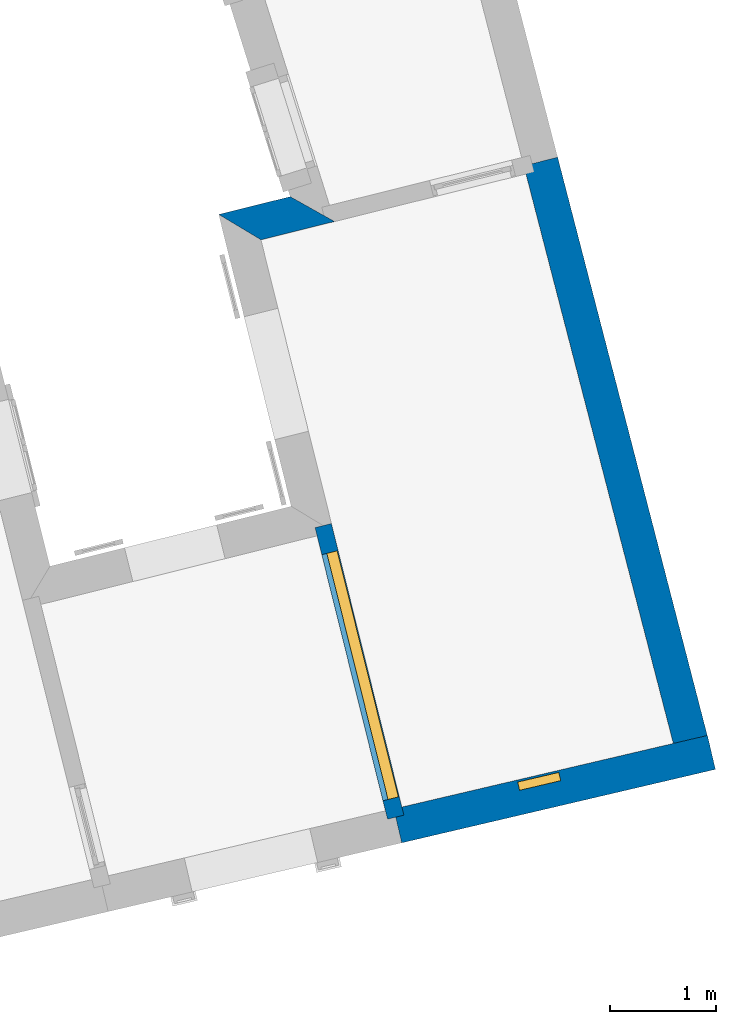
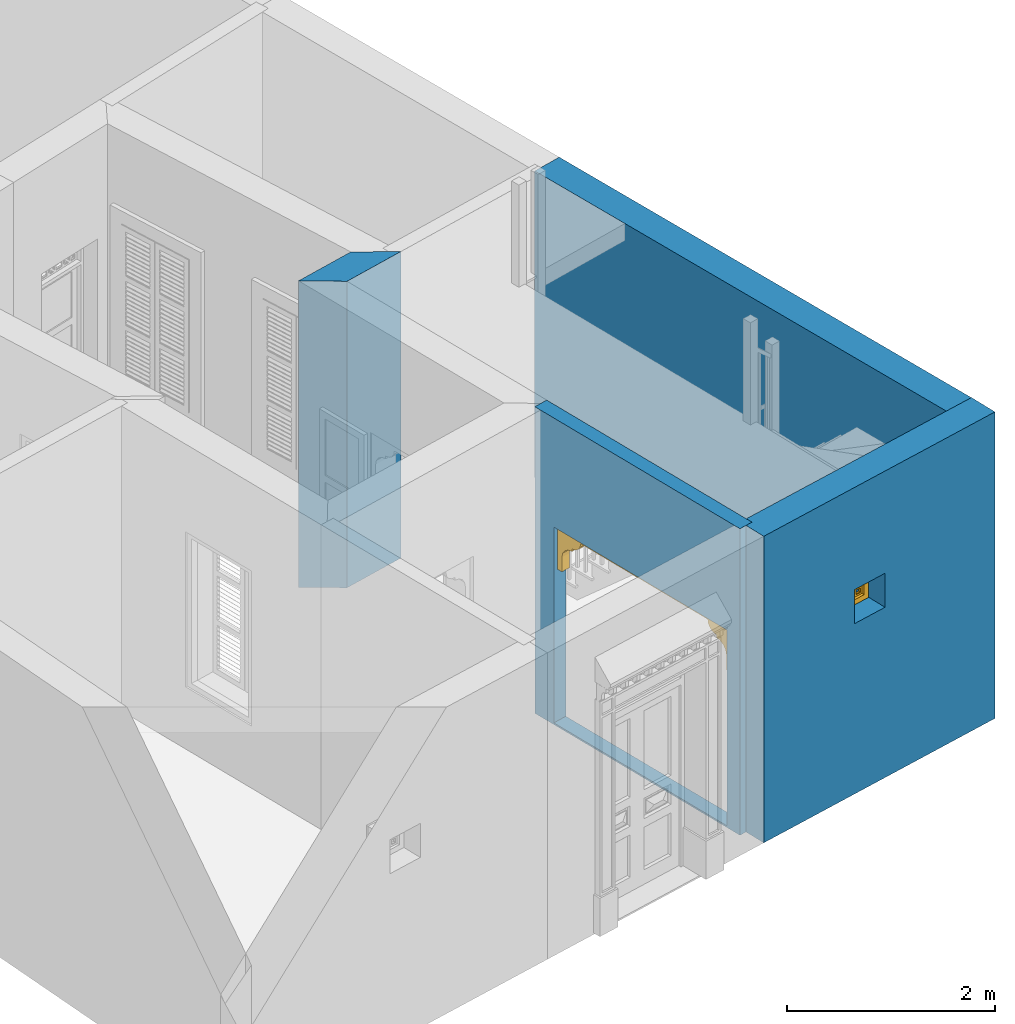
# One storey, part 8 of 14: 4 walls, 1 door, 1 window, 2 openings.
"""IFC4 building model written with IfcOpenShell, lengths in metres."""

import ifcopenshell
import ifcopenshell.guid

model = None  # the IFC model being written
_history = None  # IfcOwnerHistory: only IFC2X3 demands one
_inside = {}  # id of a spatial element -> (the spatial element, [elements in it])
_under = {}  # id of a project, library or spatial element -> (it, [spatial elements below it])
_declared = {}  # id of a project -> (the project, [libraries it declares])
_typed = {}  # id of a type object -> (the type object, [elements of that type])
_made_of = {}  # id of a material, layer set ... -> (it, [elements and type objects made of it])


def new_model(schema):
    """Start an empty IFC model of exactly this schema.

    Asked for "IFC4X3", IfcOpenShell would pick the latest addendum, in which some entities
    have other attributes; the version numbers below select the first issue.
    IFC2X3 requires an IfcOwnerHistory on every rooted entity: one is made here for all.
    """
    global model, _history
    if schema == "IFC4X3":
        model = ifcopenshell.file(schema_version=(4, 3, 0, 0))
    else:
        model = ifcopenshell.file(schema=schema)
    _inside.clear()
    _under.clear()
    _declared.clear()
    _typed.clear()
    _made_of.clear()
    _history = None
    if model.schema == "IFC2X3":
        org = make("IfcOrganization", Name="unknown")
        user = make(
            "IfcPersonAndOrganization",
            ThePerson=make("IfcPerson", FamilyName="unknown"),
            TheOrganization=org,
        )
        app = make(
            "IfcApplication",
            ApplicationDeveloper=org,
            Version="unknown",
            ApplicationFullName="unknown",
            ApplicationIdentifier="unknown",
        )
        _history = make(
            "IfcOwnerHistory",
            OwningUser=user,
            OwningApplication=app,
            ChangeAction="ADDED",
            CreationDate=0,
        )
    return model


def make(cls, **values):
    """One entity of the class cls with the attributes given. An attribute that is None is left unset."""
    return model.create_entity(
        cls, **{name: value for name, value in values.items() if value is not None}
    )


def rooted(cls, **values):
    """An entity with a GlobalId (a new one), such as an element, a storey or a relation."""
    return make(cls, GlobalId=ifcopenshell.guid.new(), OwnerHistory=_history, **values)


def si_unit(unit_type, name, prefix=None):
    """IfcSIUnit, for example si_unit("LENGTHUNIT", "METRE", prefix="MILLI")."""
    return make("IfcSIUnit", UnitType=unit_type, Prefix=prefix, Name=name)


def assignment(units):
    """IfcUnitAssignment: the units of a project."""
    return None if units is None else make("IfcUnitAssignment", Units=units)


def point(xyz):
    """IfcCartesianPoint."""
    return None if xyz is None else make("IfcCartesianPoint", Coordinates=xyz)


def direction(xyz):
    """IfcDirection."""
    return None if xyz is None else make("IfcDirection", DirectionRatios=xyz)


def frame(location, z_axis=None, x_axis=None):
    """IfcAxis2Placement3D, a coordinate frame: its origin and axes. An axis left out is left unset."""
    return make(
        "IfcAxis2Placement3D",
        Location=point(location),
        Axis=direction(z_axis),
        RefDirection=direction(x_axis),
    )


def origin():
    """The frame at (0, 0, 0) with its axes left unset."""
    return frame((0.0, 0.0, 0.0))


def origin_with_axes():
    """The frame at (0, 0, 0) with the z axis (0, 0, 1) and the x axis (1, 0, 0) written out."""
    return frame((0.0, 0.0, 0.0), z_axis=(0.0, 0.0, 1.0), x_axis=(1.0, 0.0, 0.0))


def place(relative_to, where):
    """IfcLocalPlacement: puts the frame where relative to a parent placement (None: the world)."""
    return make(
        "IfcLocalPlacement", PlacementRelTo=relative_to, RelativePlacement=where
    )


def context(
    kind, dimensions, precision=None, world=None, true_north=None, identifier=None
):
    """IfcGeometricRepresentationContext, for example the 3D "Model" context."""
    return make(
        "IfcGeometricRepresentationContext",
        ContextIdentifier=identifier,
        ContextType=kind,
        CoordinateSpaceDimension=dimensions,
        Precision=precision,
        WorldCoordinateSystem=world,
        TrueNorth=true_north,
    )


def subcontext(parent, identifier, kind, view, scale=None):
    """IfcGeometricRepresentationSubContext, for example "Body" below "Model"."""
    return make(
        "IfcGeometricRepresentationSubContext",
        ContextIdentifier=identifier,
        ContextType=kind,
        ParentContext=parent,
        TargetScale=scale,
        TargetView=view,
    )


def project(units=None, contexts=None):
    """IfcProject with its units and contexts."""
    return rooted(
        "IfcProject",
        Name="project",
        RepresentationContexts=contexts,
        UnitsInContext=assignment(units),
    )


def spatial(cls, under=None, at=None, **own):
    """A site, building, storey or space (cls), placed at a placement, below another one or the project."""
    s = rooted(cls, ObjectPlacement=at, **own)
    if under is not None:
        _under.setdefault(under.id(), (under, []))[1].append(s)
    return s


def polyline(points):
    """IfcPolyline through the points."""
    return make("IfcPolyline", Points=[point(p) for p in points])


def outline(outer, holes=None, kind="AREA"):
    """IfcArbitraryClosedProfileDef: a profile drawn as a closed curve; with holes, ...WithVoids."""
    if holes is None:
        return make("IfcArbitraryClosedProfileDef", ProfileType=kind, OuterCurve=outer)
    return make(
        "IfcArbitraryProfileDefWithVoids",
        ProfileType=kind,
        OuterCurve=outer,
        InnerCurves=holes,
    )


def extrude(swept, where, along, depth):
    """IfcExtrudedAreaSolid: the profile swept, set in the frame where, extruded along a direction by depth."""
    return make(
        "IfcExtrudedAreaSolid",
        SweptArea=swept,
        Position=where,
        ExtrudedDirection=direction(along),
        Depth=depth,
    )


def faces_of(points, faces, orient=None, outer=None):
    """IfcFace entities. A face is a list of loops; a loop is a list of indices into points, from 0.

    orient and outer hold one flag for each loop. By default every Orientation is true, the
    first loop of a face is its IfcFaceOuterBound and the others are IfcFaceBound.
    """
    made = []
    for i, loops in enumerate(faces):
        bounds = []
        for j, loop in enumerate(loops):
            is_outer = j == 0 if outer is None else outer[i][j]
            bounds.append(
                make(
                    "IfcFaceOuterBound" if is_outer else "IfcFaceBound",
                    Bound=make("IfcPolyLoop", Polygon=[points[k] for k in loop]),
                    Orientation=True if orient is None else orient[i][j],
                )
            )
        made.append(make("IfcFace", Bounds=bounds))
    return made


def faceted_brep(points, faces, orient=None, outer=None, voids=None):
    """IfcFacetedBrep: a solid bounded by flat faces; with voids (closed shells), ...WithVoids."""
    shared = [point(p) for p in points]
    hull = make("IfcClosedShell", CfsFaces=faces_of(shared, faces, orient, outer))
    if voids is None:
        return make("IfcFacetedBrep", Outer=hull)
    return make(
        "IfcFacetedBrepWithVoids",
        Outer=hull,
        Voids=[
            make(cls, CfsFaces=faces_of(shared, fs, o, b)) for cls, fs, o, b in voids
        ],
    )


def shape(context_of_items, identifier, shape_type, items):
    """IfcShapeRepresentation: the items that make up one representation, for example the "Body"."""
    return make(
        "IfcShapeRepresentation",
        ContextOfItems=context_of_items,
        RepresentationIdentifier=identifier,
        RepresentationType=shape_type,
        Items=items,
    )


def source(mapping_origin, context_of_items, identifier, shape_type, items):
    """IfcRepresentationMap: a shape defined once, which mapped items show again and again."""
    return make(
        "IfcRepresentationMap",
        MappingOrigin=mapping_origin,
        MappedRepresentation=shape(context_of_items, identifier, shape_type, items),
    )


def transform(
    local_origin,
    x_axis=None,
    y_axis=None,
    z_axis=None,
    scale=None,
    scale2=None,
    scale3=None,
    uniform=True,
):
    """IfcCartesianTransformationOperator3D, or its non-uniform kind. x_axis, y_axis, z_axis: its Axis1, 2, 3."""
    if uniform:
        return make(
            "IfcCartesianTransformationOperator3D",
            Axis1=direction(x_axis),
            Axis2=direction(y_axis),
            LocalOrigin=point(local_origin),
            Scale=scale,
            Axis3=direction(z_axis),
        )
    return make(
        "IfcCartesianTransformationOperator3DnonUniform",
        Axis1=direction(x_axis),
        Axis2=direction(y_axis),
        LocalOrigin=point(local_origin),
        Scale=scale,
        Axis3=direction(z_axis),
        Scale2=scale2,
        Scale3=scale3,
    )


def mapped(mapping_source, mapping_target):
    """IfcMappedItem: shows the shape of a source again, moved by a transform."""
    return make(
        "IfcMappedItem", MappingSource=mapping_source, MappingTarget=mapping_target
    )


def material(Name=None, Category=None):
    """IfcMaterial."""
    return make("IfcMaterial", Name=Name, Category=Category)


def layer(
    of_material, thickness, ventilated=None, Name=None, Category=None, Priority=None
):
    """IfcMaterialLayer: one layer of a wall or slab, of a material (None: an air gap)."""
    return make(
        "IfcMaterialLayer",
        Material=of_material,
        LayerThickness=thickness,
        IsVentilated=ventilated,
        Name=Name,
        Category=Category,
        Priority=Priority,
    )


def layer_set(layers, Name=None):
    """IfcMaterialLayerSet."""
    return make("IfcMaterialLayerSet", MaterialLayers=layers, LayerSetName=Name)


def layer_usage(for_layer_set, set_direction, sense, offset, extent=None):
    """IfcMaterialLayerSetUsage: how a layer set lies in its element."""
    return make(
        "IfcMaterialLayerSetUsage",
        ForLayerSet=for_layer_set,
        LayerSetDirection=set_direction,
        DirectionSense=sense,
        OffsetFromReferenceLine=offset,
        ReferenceExtent=extent,
    )


def made_of(thing, what):
    """Note that an element or type object is made of a material, layer set ...; save() writes the relation."""
    if what is not None:
        _made_of.setdefault(what.id(), (what, []))[1].append(thing)
    return thing


def type_object(cls, material=None, **own):
    """A type object (cls), such as IfcWallType, which elements share."""
    return made_of(rooted(cls, **own), material)


def type_shapes(of_type, sources):
    """Give a type object the sources (RepresentationMaps) that its elements show as mapped items."""
    of_type.RepresentationMaps = sources


def element(
    cls,
    number,
    at=None,
    inside=None,
    cuts=None,
    type_object=None,
    material=None,
    context=None,
    identifier="Body",
    shape_type=None,
    held_by="IfcProductDefinitionShape",
    body=None,
    shapes=None,
    **own,
):
    """One element of the class cls, such as IfcWall. Its Tag is "e" and its number.

    at: its placement. inside: the storey or other place that contains it. cuts: it is an
    opening in that element (IfcRelVoidsElement). A single representation is given by context,
    identifier, shape_type and body (its items); several are given by shapes. held_by: the class
    of the entity that holds the representations. save() writes the other relations.
    """
    e = rooted(cls, Tag="e%d" % number, ObjectPlacement=at, **own)
    if body is not None:
        shapes = [shape(context, identifier, shape_type, body)]
    if shapes is not None:
        e.Representation = make(held_by, Representations=shapes)
    if inside is not None:
        _inside.setdefault(inside.id(), (inside, []))[1].append(e)
    if cuts is not None:
        rooted(
            "IfcRelVoidsElement", RelatingBuildingElement=cuts, RelatedOpeningElement=e
        )
    if type_object is not None:
        _typed.setdefault(type_object.id(), (type_object, []))[1].append(e)
    return made_of(e, material)


def fill(opening, filler):
    """IfcRelFillsElement: the door or window that sits in an opening."""
    return rooted(
        "IfcRelFillsElement",
        RelatingOpeningElement=opening,
        RelatedBuildingElement=filler,
    )


def aggregate(whole, parts):
    """IfcRelAggregates: a whole, such as a stair, and the parts it consists of."""
    return rooted("IfcRelAggregates", RelatingObject=whole, RelatedObjects=parts)


def save(model, path):
    """Write the relations noted so far, then the file.

    IfcRelAggregates (storeys below a building ...), IfcRelContainedInSpatialStructure (elements
    in a storey), IfcRelDefinesByType, IfcRelAssociatesMaterial and IfcRelDeclares: one each for
    every whole, place, type object, material and project.
    """
    for whole, parts in _under.values():
        aggregate(whole, parts)
    for where, things in _inside.values():
        rooted(
            "IfcRelContainedInSpatialStructure",
            RelatedElements=things,
            RelatingStructure=where,
        )
    for kind, things in _typed.values():
        rooted("IfcRelDefinesByType", RelatedObjects=things, RelatingType=kind)
    for what, things in _made_of.values():
        rooted("IfcRelAssociatesMaterial", RelatedObjects=things, RelatingMaterial=what)
    for by, libraries in _declared.values():
        rooted("IfcRelDeclares", RelatingContext=by, RelatedDefinitions=libraries)
    model.write(path)


model = new_model("IFC4")

# Units and contexts
model_context = context("Model", 3, world=origin_with_axes())
body_context = subcontext(model_context, "Body", "Model", "MODEL_VIEW")
ifc_project = project(units=[si_unit("PLANEANGLEUNIT", "RADIAN"), si_unit("MASSUNIT", "GRAM", prefix="KILO"), si_unit("FORCEUNIT", "NEWTON", prefix="KILO"), si_unit("LENGTHUNIT", "METRE"), si_unit("AREAUNIT", "SQUARE_METRE"), si_unit("VOLUMEUNIT", "CUBIC_METRE")], contexts=[model_context, model_context])

# Site, building, storey
site_placement = place(None, origin_with_axes())
site = spatial("IfcSite", under=ifc_project, at=site_placement, Name="Site plot-0", CompositionType="ELEMENT")
building_placement = place(None, origin_with_axes())
building = spatial("IfcBuilding", under=site, at=building_placement, Name="Building plot-0", CompositionType="ELEMENT")
storey_placement = place(None, origin_with_axes())
storey = spatial("IfcBuildingStorey", under=building, at=storey_placement, Name="plot-0 0", CompositionType="ELEMENT", Elevation=0.0)

# Wall
ifc_material_1 = material(Name="Masonry")
ifc_layer_1 = layer(ifc_material_1, 0.33, ventilated=False)
ifc_layer_set_1 = layer_set([ifc_layer_1], Name="exterior_0.08_0.25")
ifc_layer_usage_1 = layer_usage(ifc_layer_set_1, "AXIS2", "POSITIVE", -0.25)
wall_type_1 = type_object("IfcWallType", Name="exterior_0.08_0.25", PredefinedType="SOLIDWALL", material=ifc_layer_set_1)
wall_1_placement = place(storey_placement, frame((7.44525118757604, 6.24690220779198, 0.0), z_axis=(0.0, 0.0, 1.0), x_axis=(-0.970472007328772, -0.241213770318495, 0.0)))
element("IfcWall", 1, at=wall_1_placement, inside=storey, type_object=wall_type_1, material=ifc_layer_usage_1, Name="exterior", context=body_context, shape_type="SweptSolid", body=[
    extrude(outline(polyline([(-0.0850170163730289, 0.0799999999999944), (0.265678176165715, -0.250000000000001), (0.963971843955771, -0.25), (0.633971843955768, 0.0799999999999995), (-0.0850170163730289, 0.0799999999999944)])), origin_with_axes(), (0.0, 0.0, 1.0), 3.6),
])

# Wall, opening, window
wall_2_placement = place(storey_placement, frame((8.12533742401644, 0.550807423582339, 0.0), z_axis=(0.0, 0.0, 1.0), x_axis=(0.973652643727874, 0.22803624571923, 0.0)))
wall_2 = element("IfcWall", 2, at=wall_2_placement, inside=storey, type_object=wall_type_1, material=ifc_layer_usage_1, Name="exterior", context=body_context, shape_type="SweptSolid", body=[
    extrude(outline(polyline([(-1.37209959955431e-16, 0.0800000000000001), (2.37352689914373e-16, -0.25), (3.05017522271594, -0.25), (3.05017522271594, 0.08), (-1.37209959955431e-16, 0.0800000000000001)])), origin_with_axes(), (0.0, 0.0, 1.0), 3.6),
])
opening_1_placement = place(wall_2_placement, frame((1.20008761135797, 0.0, 2.0)))
opening_1 = element("IfcOpeningElement", 3, at=opening_1_placement, cuts=wall_2, Name="My Opening", ObjectType="Opening", context=body_context, shape_type="SweptSolid", body=[
    extrude(outline(polyline([(0.0, -0.27), (0.399999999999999, -0.27), (0.4, 1.1), (1.11022302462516e-15, 1.1), (0.0, -0.27)])), origin_with_axes(), (0.0, 0.0, 1.0), 0.4),
])
window_type = type_object("IfcWindowType", Name="barred_window", PartitioningType="DOUBLE_PANEL_HORIZONTAL", PredefinedType="NOTDEFINED")
shared_shape_1 = source(origin(), body_context, "Body", "Brep", [
    faceted_brep([(0.4, 0.25, 0.4), (0.0, 0.25, 0.4), (0.06, 0.25, 0.34), (0.34, 0.25, 0.34), (0.06, 0.33, 0.34), (0.34, 0.33, 0.34), (0.34, 0.25, 0.06), (0.4, 0.25, 0.0), (0.4, 0.33, 0.4), (0.0, 0.33, 0.4), (0.0, 0.25, 0.0), (0.06, 0.25, 0.06), (0.06, 0.33, 0.06), (0.34, 0.33, 0.06), (0.4, 0.33, 0.0), (0.0, 0.33, 0.0), (0.136152, 0.28, 0.08), (0.08, 0.28, 0.08), (0.06, 0.28, 0.06), (0.136152, 0.28, 0.06), (0.136152, 0.29, 0.08), (0.08, 0.29, 0.08), (0.06, 0.28, 0.136152), (0.08, 0.28, 0.136152), (0.06, 0.29, 0.06), (0.136152, 0.29, 0.06), (0.170294, 0.28, 0.08), (0.170294, 0.28, 0.06), (0.136152, 0.28, 0.136152), (0.136152, 0.29, 0.136152), (0.08, 0.29, 0.136152), (0.06, 0.29, 0.136152), (0.08, 0.28, 0.170294), (0.06, 0.28, 0.170294), (0.170294, 0.29, 0.06), (0.229706, 0.28, 0.08), (0.229706, 0.28, 0.06), (0.156152, 0.28, 0.094142), (0.156152, 0.28, 0.136152), (0.185858, 0.28, 0.123848), (0.185858, 0.29, 0.123848), (0.156152, 0.29, 0.094142), (0.156152, 0.29, 0.136152), (0.229706, 0.29, 0.08), (0.170294, 0.29, 0.08), (0.2, 0.28, 0.109706), (0.2, 0.29, 0.109706), (0.06, 0.29, 0.170294), (0.094142, 0.28, 0.156152), (0.08, 0.28, 0.229706), (0.06, 0.28, 0.229706), (0.229706, 0.29, 0.06), (0.263848, 0.28, 0.08), (0.263848, 0.28, 0.06), (0.156152, 0.28, 0.156152), (0.136152, 0.28, 0.156152), (0.173553, 0.28, 0.136152), (0.173553, 0.29, 0.136152), (0.156152, 0.29, 0.156152), (0.136152, 0.29, 0.156152), (0.094142, 0.29, 0.156152), (0.08, 0.29, 0.170294), (0.06, 0.29, 0.229706), (0.123848, 0.28, 0.185858), (0.109706, 0.28, 0.2), (0.08, 0.29, 0.229706), (0.08, 0.28, 0.263848), (0.06, 0.28, 0.263848), (0.263848, 0.29, 0.06), (0.2, 0.28, 0.13799), (0.214142, 0.28, 0.123848), (0.34, 0.28, 0.06), (0.32, 0.28, 0.08), (0.181838, 0.28, 0.156152), (0.136152, 0.28, 0.173553), (0.156152, 0.28, 0.181838), (0.181838, 0.29, 0.156152), (0.2, 0.29, 0.13799), (0.214142, 0.29, 0.123848), (0.136152, 0.29, 0.173553), (0.156152, 0.29, 0.181838), (0.243848, 0.28, 0.094142), (0.243848, 0.29, 0.094142), (0.263848, 0.28, 0.136152), (0.263848, 0.29, 0.08), (0.263848, 0.29, 0.136152), (0.32, 0.29, 0.08), (0.243848, 0.28, 0.136152), (0.243848, 0.29, 0.136152), (0.06, 0.29, 0.263848), (0.123848, 0.29, 0.185858), (0.13799, 0.28, 0.2), (0.123848, 0.28, 0.214142), (0.109706, 0.29, 0.2), (0.094142, 0.28, 0.243848), (0.08, 0.28, 0.32), (0.06, 0.28, 0.34), (0.34, 0.29, 0.06), (0.218162, 0.28, 0.156152), (0.226447, 0.28, 0.136152), (0.34, 0.28, 0.229706), (0.32, 0.28, 0.229706), (0.32, 0.28, 0.170294), (0.32, 0.28, 0.136152), (0.218162, 0.29, 0.156152), (0.226447, 0.29, 0.136152), (0.13799, 0.29, 0.2), (0.32, 0.29, 0.136152), (0.08, 0.29, 0.263848), (0.06, 0.29, 0.34), (0.136152, 0.28, 0.226447), (0.156152, 0.28, 0.218162), (0.094142, 0.29, 0.243848), (0.123848, 0.29, 0.214142), (0.136152, 0.28, 0.243848), (0.136152, 0.28, 0.263848), (0.08, 0.29, 0.32), (0.136152, 0.28, 0.34), (0.136152, 0.28, 0.32), (0.34, 0.29, 0.229706), (0.243848, 0.28, 0.156152), (0.263848, 0.28, 0.156152), (0.34, 0.28, 0.263848), (0.32, 0.28, 0.263848), (0.32, 0.29, 0.229706), (0.32, 0.29, 0.170294), (0.290294, 0.28, 0.2), (0.276152, 0.28, 0.185858), (0.305858, 0.28, 0.156152), (0.243848, 0.29, 0.156152), (0.263848, 0.29, 0.156152), (0.305858, 0.29, 0.156152), (0.276152, 0.29, 0.185858), (0.290294, 0.29, 0.2), (0.136152, 0.29, 0.34), (0.136152, 0.29, 0.226447), (0.156152, 0.29, 0.218162), (0.156152, 0.28, 0.243848), (0.136152, 0.29, 0.243848), (0.156152, 0.28, 0.263848), (0.136152, 0.29, 0.263848), (0.136152, 0.29, 0.32), (0.170294, 0.28, 0.32), (0.170294, 0.28, 0.34), (0.34, 0.29, 0.263848), (0.243848, 0.28, 0.181838), (0.263848, 0.28, 0.173553), (0.34, 0.28, 0.34), (0.32, 0.28, 0.32), (0.305858, 0.28, 0.243848), (0.276152, 0.28, 0.214142), (0.26201, 0.28, 0.2), (0.243848, 0.29, 0.181838), (0.263848, 0.29, 0.173553), (0.26201, 0.29, 0.2), (0.276152, 0.29, 0.214142), (0.32, 0.29, 0.263848), (0.170294, 0.29, 0.34), (0.156152, 0.29, 0.243848), (0.173553, 0.28, 0.263848), (0.181838, 0.28, 0.243848), (0.156152, 0.28, 0.305858), (0.229706, 0.28, 0.32), (0.229706, 0.28, 0.34), (0.34, 0.29, 0.34), (0.263848, 0.28, 0.34), (0.263848, 0.28, 0.32), (0.32, 0.29, 0.32), (0.263848, 0.28, 0.263848), (0.263848, 0.28, 0.243848), (0.305858, 0.29, 0.243848), (0.263848, 0.28, 0.226447), (0.243848, 0.28, 0.218162), (0.243848, 0.29, 0.218162), (0.263848, 0.29, 0.226447), (0.156152, 0.29, 0.263848), (0.170294, 0.29, 0.32), (0.229706, 0.29, 0.34), (0.181838, 0.29, 0.243848), (0.173553, 0.29, 0.263848), (0.185858, 0.28, 0.276152), (0.2, 0.28, 0.26201), (0.156152, 0.29, 0.305858), (0.229706, 0.29, 0.32), (0.263848, 0.29, 0.34), (0.263848, 0.29, 0.32), (0.263848, 0.29, 0.263848), (0.243848, 0.28, 0.243848), (0.243848, 0.28, 0.263848), (0.263848, 0.29, 0.243848), (0.243848, 0.29, 0.243848), (0.2, 0.29, 0.26201), (0.185858, 0.29, 0.276152), (0.214142, 0.28, 0.276152), (0.218162, 0.28, 0.243848), (0.226447, 0.28, 0.263848), (0.243848, 0.28, 0.305858), (0.2, 0.28, 0.290294), (0.2, 0.29, 0.290294), (0.243848, 0.29, 0.263848), (0.218162, 0.29, 0.243848), (0.214142, 0.29, 0.276152), (0.226447, 0.29, 0.263848), (0.243848, 0.29, 0.305858)], [[[0, 1, 2, 3]], [[3, 2, 4, 5]], [[3, 6, 7, 0]], [[1, 0, 8, 9]], [[1, 10, 11, 2]], [[2, 11, 12, 4]], [[9, 8, 5, 4]], [[6, 3, 5, 13]], [[6, 11, 10, 7]], [[0, 7, 14, 8]], [[10, 1, 9, 15]], [[11, 6, 13, 12]], [[4, 12, 15, 9]], [[8, 14, 13, 5]], [[7, 10, 15, 14]], [[12, 13, 14, 15]], [[16, 17, 18, 19]], [[17, 16, 20, 21]], [[22, 18, 17, 23]], [[19, 18, 24, 25]], [[26, 16, 19, 27]], [[16, 28, 29, 20]], [[21, 20, 25, 24]], [[23, 17, 21, 30]], [[18, 22, 31, 24]], [[23, 32, 33, 22]], [[27, 19, 25, 34]], [[35, 26, 27, 36]], [[28, 16, 37, 38]], [[37, 39, 40, 41]], [[38, 37, 41, 42]], [[20, 29, 42, 41]], [[26, 35, 43, 44]], [[45, 26, 44, 46]], [[20, 44, 34, 25]], [[28, 23, 30, 29]], [[24, 31, 30, 21]], [[22, 33, 47, 31]], [[48, 32, 23]], [[32, 49, 50, 33]], [[36, 27, 34, 51]], [[39, 37, 26, 45]], [[52, 35, 36, 53]], [[38, 54, 55, 28]], [[39, 56, 57, 40]], [[41, 40, 46, 44]], [[56, 38, 42, 57]], [[58, 42, 29, 59]], [[35, 45, 46, 43]], [[44, 43, 51, 34]], [[23, 28, 55, 48]], [[29, 30, 60, 59]], [[61, 30, 31, 47]], [[33, 50, 62, 47]], [[48, 63, 64, 32]], [[49, 32, 61, 65]], [[49, 66, 67, 50]], [[53, 36, 51, 68]], [[69, 39, 45, 70]], [[53, 71, 72, 52]], [[73, 54, 38, 56]], [[74, 55, 54, 75]], [[56, 39, 69, 73]], [[40, 57, 76, 77]], [[40, 77, 78, 46]], [[58, 76, 57, 42]], [[59, 79, 80, 58]], [[45, 35, 81, 70]], [[43, 46, 78, 82]], [[83, 52, 84, 85]], [[82, 84, 43]], [[52, 72, 86, 84]], [[43, 84, 68, 51]], [[44, 20, 41]], [[70, 81, 82, 78]], [[81, 87, 88, 82]], [[48, 55, 59, 60]], [[61, 60, 30]], [[65, 61, 47, 62]], [[50, 67, 89, 62]], [[63, 48, 60, 90]], [[63, 91, 92, 64]], [[32, 64, 93, 61]], [[64, 49, 65, 93]], [[94, 66, 49]], [[66, 95, 96, 67]], [[71, 53, 68, 97]], [[98, 69, 70, 99]], [[81, 52, 83, 87]], [[72, 71, 100]], [[100, 101, 102]], [[103, 72, 100]], [[100, 102, 103]], [[54, 73, 76, 58]], [[55, 74, 79, 59]], [[75, 54, 58, 80]], [[63, 74, 75, 91]], [[73, 69, 77, 76]], [[77, 104, 105, 78]], [[79, 90, 106, 80]], [[84, 82, 88, 85]], [[103, 83, 85, 107]], [[72, 103, 107, 86]], [[97, 68, 84, 86]], [[99, 70, 78, 105]], [[87, 99, 105, 88]], [[90, 60, 61, 93]], [[108, 65, 62, 89]], [[67, 96, 109, 89]], [[74, 63, 90, 79]], [[110, 92, 91, 111]], [[49, 64, 92, 94]], [[93, 65, 112, 113]], [[94, 114, 115, 66]], [[95, 66, 108, 116]], [[117, 96, 95, 118]], [[100, 71, 97, 119]], [[69, 98, 104, 77]], [[99, 87, 120, 98]], [[87, 83, 121, 120]], [[101, 100, 122, 123]], [[102, 101, 124, 125]], [[121, 83, 103]], [[103, 102, 126]], [[126, 127, 128]], [[128, 121, 103]], [[103, 126, 128]], [[91, 75, 80, 106]], [[88, 105, 104, 129]], [[106, 90, 93, 113]], [[85, 88, 129, 130]], [[107, 85, 130]], [[131, 132, 133]], [[107, 130, 131]], [[133, 125, 107]], [[107, 131, 133]], [[124, 119, 97]], [[97, 86, 107]], [[107, 125, 124]], [[97, 107, 124]], [[108, 112, 65]], [[116, 108, 89, 109]], [[96, 117, 134, 109]], [[92, 110, 135, 113]], [[111, 91, 106, 136]], [[114, 110, 111, 137]], [[94, 92, 113, 112]], [[114, 94, 112, 138]], [[114, 137, 139, 115]], [[66, 115, 140, 108]], [[118, 95, 116, 141]], [[118, 142, 143, 117]], [[122, 100, 119, 144]], [[98, 120, 129, 104]], [[145, 120, 121, 146]], [[122, 147, 148, 123]], [[123, 149, 101]], [[101, 126, 133, 124]], [[126, 102, 125, 133]], [[127, 126, 150, 151]], [[128, 127, 132, 131]], [[121, 128, 131, 130]], [[113, 135, 136, 106]], [[129, 152, 153, 130]], [[133, 132, 154, 155]], [[119, 124, 156, 144]], [[138, 112, 108, 140]], [[109, 134, 141, 116]], [[117, 143, 157, 134]], [[110, 114, 138, 135]], [[137, 111, 136, 158]], [[159, 139, 137, 160]], [[118, 115, 139, 161]], [[115, 118, 141, 140]], [[161, 142, 118]], [[162, 163, 143, 142]], [[147, 122, 144, 164]], [[120, 145, 152, 129]], [[146, 121, 130, 153]], [[146, 127, 151, 145]], [[147, 165, 166, 148]], [[123, 148, 167, 156]], [[149, 123, 168, 169]], [[149, 150, 126, 101]], [[155, 170, 124, 133]], [[151, 150, 171, 172]], [[127, 146, 153, 132]], [[135, 138, 158, 136]], [[132, 153, 152, 154]], [[155, 154, 173, 174]], [[170, 156, 124]], [[164, 144, 156, 167]], [[158, 138, 140, 175]], [[176, 141, 134, 157]], [[143, 163, 177, 157]], [[160, 137, 158, 178]], [[139, 159, 179, 175]], [[180, 159, 160, 181]], [[161, 139, 175, 182]], [[140, 141, 182, 175]], [[166, 165, 163, 162]], [[162, 142, 176, 183]], [[165, 147, 164, 184]], [[145, 151, 154, 152]], [[148, 166, 185, 167]], [[156, 186, 168, 123]], [[187, 169, 168, 188]], [[149, 169, 189, 170]], [[150, 149, 170, 155]], [[171, 150, 155, 174]], [[171, 169, 187, 172]], [[151, 172, 173, 154]], [[189, 174, 173, 190]], [[156, 170, 189, 186]], [[184, 164, 167, 185]], [[175, 179, 178, 158]], [[176, 182, 141]], [[177, 183, 176, 157]], [[163, 165, 184, 177]], [[181, 160, 178, 191]], [[159, 180, 192, 179]], [[180, 161, 182, 192]], [[193, 181, 194, 195]], [[196, 162, 197, 193]], [[180, 197, 142, 161]], [[197, 180, 181, 193]], [[142, 197, 198, 176]], [[162, 196, 166]], [[35, 52, 81]], [[197, 162, 183, 198]], [[185, 166, 168, 186]], [[196, 188, 168, 166]], [[187, 188, 195, 194]], [[169, 171, 174, 189]], [[172, 187, 190, 173]], [[189, 190, 199, 186]], [[184, 185, 183, 177]], [[179, 192, 191, 178]], [[176, 198, 192, 182]], [[194, 181, 191, 200]], [[191, 192, 198, 201]], [[26, 37, 16]], [[193, 195, 202, 201]], [[196, 193, 201, 203]], [[191, 201, 202, 200]], [[183, 203, 201, 198]], [[188, 196, 203, 199]], [[203, 183, 185]], [[199, 203, 185, 186]], [[195, 188, 199, 202]], [[187, 194, 200, 190]], [[199, 190, 200, 202]]]),
])
type_shapes(window_type, [shared_shape_1])
window_placement = place(storey_placement, frame((9.35537568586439, 0.561584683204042, 2.0), z_axis=(0.0, 0.0, 1.0), x_axis=(0.389461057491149, 0.0912144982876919, 0.0)))
window = element("IfcWindow", 4, at=window_placement, inside=storey, type_object=window_type, Name="circulation street window", OverallHeight=0.4, OverallWidth=0.4, context=body_context, shape_type="MappedRepresentation", body=[
    mapped(shared_shape_1, transform((0.0, 0.0, 0.0), scale=1.0)),
])
fill(opening_1, window)

# Wall
ifc_material_2 = material(Name="Masonry")
ifc_layer_2 = layer(ifc_material_2, 0.33, ventilated=False)
ifc_layer_set_2 = layer_set([ifc_layer_2], Name="party_0.08_0.25")
ifc_layer_usage_2 = layer_usage(ifc_layer_set_2, "AXIS2", "POSITIVE", -0.25)
wall_type_2 = type_object("IfcWallType", Name="party_0.08_0.25", PredefinedType="SOLIDWALL", material=ifc_layer_set_2)
wall_3_placement = place(storey_placement, frame((10.8517354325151, 1.18934886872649, 0.0), z_axis=(0.0, 0.0, 1.0), x_axis=(-0.250522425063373, 0.968110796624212, 0.0)))
element("IfcWall", 5, at=wall_3_placement, inside=storey, type_object=wall_type_2, material=ifc_layer_usage_2, Name="party", context=body_context, shape_type="SweptSolid", body=[
    extrude(outline(polyline([(1.47007134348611e-16, 0.0800000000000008), (2.37352689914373e-16, -0.249999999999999), (5.73016908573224, -0.249999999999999), (5.73016908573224, 0.0800000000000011), (1.47007134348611e-16, 0.0800000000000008)])), origin_with_axes(), (0.0, 0.0, 1.0), 3.6),
])

# Wall, opening, door
ifc_material_3 = material(Name="Masonry")
ifc_layer_3 = layer(ifc_material_3, 0.16, ventilated=False)
ifc_layer_set_3 = layer_set([ifc_layer_3], Name="interior_0.08_0.08")
ifc_layer_usage_3 = layer_usage(ifc_layer_set_3, "AXIS2", "POSITIVE", -0.08)
wall_type_3 = type_object("IfcWallType", Name="interior_0.08_0.08", PredefinedType="SOLIDWALL", material=ifc_layer_set_3)
wall_4_placement = place(storey_placement, frame((8.12533742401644, 0.550807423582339, 0.0), z_axis=(0.0, 0.0, 1.0), x_axis=(-0.2412137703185, 0.970472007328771, 0.0)))
wall_4 = element("IfcWall", 6, at=wall_4_placement, inside=storey, type_object=wall_type_3, material=ifc_layer_usage_3, Name="interior", context=body_context, shape_type="SweptSolid", body=[
    extrude(outline(polyline([(-2.08264233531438e-16, 0.0799999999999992), (2.18061407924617e-16, -0.0799999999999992), (2.84449886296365, -0.0800000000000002), (2.84449886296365, 0.0799999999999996), (-2.08264233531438e-16, 0.0799999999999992)])), origin_with_axes(), (0.0, 0.0, 1.0), 3.6),
])
opening_2_placement = place(wall_4_placement, frame((0.18, 0.0, 0.02)))
opening_2 = element("IfcOpeningElement", 7, at=opening_2_placement, cuts=wall_4, Name="My Opening", ObjectType="Opening", context=body_context, shape_type="SweptSolid", body=[
    extrude(outline(polyline([(0.0, -0.100000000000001), (2.4, -0.1), (2.4, 1.1), (1.11022302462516e-16, 1.1), (0.0, -0.100000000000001)])), origin_with_axes(), (0.0, 0.0, 1.0), 2.3),
])
door_type = type_object("IfcDoorType", Name="arch-2400x2300-thin", OperationType="SINGLE_SWING_LEFT", PredefinedType="NOTDEFINED")
shared_shape_2 = source(origin(), body_context, "Body", "Brep", [
    faceted_brep([(2.4, 0.03, 1.78), (2.4, 0.03, 1.95), (2.34, 0.03, 1.95), (2.34, 0.03, 1.78), (2.34, 0.13, 1.95), (2.34, 0.13, 1.78), (2.4, 0.03, 2.12), (2.329, 0.03, 2.004), (2.4, 0.13, 1.78), (2.4, 0.13, 1.95), (2.329, 0.13, 2.004), (2.299, 0.03, 2.049), (2.4, 0.13, 2.12), (2.299, 0.13, 2.049), (2.254, 0.03, 2.079), (2.4, 0.13, 2.29), (2.4, 0.03, 2.29), (2.254, 0.13, 2.079), (2.2, 0.03, 2.09), (2.2, 0.03, 2.12), (2.154, 0.03, 2.129), (2.08, 0.13, 2.29), (2.08, 0.03, 2.29), (2.2, 0.13, 2.12), (2.154, 0.13, 2.129), (2.2, 0.13, 2.09), (2.115, 0.03, 2.155), (2.089, 0.13, 2.194), (2.08, 0.13, 2.24), (2.08, 0.03, 2.24), (2.089, 0.03, 2.194), (2.115, 0.13, 2.155), (0.06, 0.03, 1.78), (0.06, 0.03, 1.95), (0.0, 0.03, 1.95), (0.0, 0.03, 1.78), (0.06, 0.13, 1.78), (0.06, 0.13, 1.95), (0.071, 0.03, 2.004), (0.0, 0.03, 2.12), (0.0, 0.13, 1.95), (0.0, 0.13, 1.78), (0.071, 0.13, 2.004), (0.101, 0.03, 2.049), (0.0, 0.13, 2.12), (0.101, 0.13, 2.049), (0.146, 0.03, 2.079), (0.0, 0.03, 2.29), (0.0, 0.13, 2.29), (0.146, 0.13, 2.079), (0.2, 0.03, 2.12), (0.2, 0.03, 2.09), (0.246, 0.03, 2.129), (0.32, 0.03, 2.29), (0.32, 0.13, 2.29), (0.246, 0.13, 2.129), (0.2, 0.13, 2.12), (0.2, 0.13, 2.09), (0.285, 0.03, 2.155), (0.32, 0.13, 2.24), (0.311, 0.13, 2.194), (0.311, 0.03, 2.194), (0.32, 0.03, 2.24), (0.285, 0.13, 2.155)], [[[0, 1, 2, 3]], [[4, 5, 3, 2]], [[1, 6, 7, 2]], [[1, 0, 8, 9]], [[5, 8, 0, 3]], [[5, 4, 9, 8]], [[10, 4, 2, 7]], [[6, 11, 7]], [[6, 1, 9, 12]], [[4, 10, 12, 9]], [[13, 10, 7, 11]], [[6, 14, 11]], [[12, 15, 16, 6]], [[12, 10, 13]], [[17, 13, 11, 14]], [[18, 14, 6, 19]], [[6, 16, 20, 19]], [[16, 15, 21, 22]], [[23, 24, 15, 12]], [[12, 13, 17]], [[25, 17, 14, 18]], [[23, 25, 18, 19]], [[24, 23, 19, 20]], [[16, 26, 20]], [[15, 27, 28, 21]], [[16, 22, 29, 30]], [[31, 15, 24]], [[23, 12, 17, 25]], [[31, 24, 20, 26]], [[16, 30, 26]], [[28, 27, 30, 29]], [[27, 15, 31]], [[27, 31, 26, 30]], [[32, 33, 34, 35]], [[33, 32, 36, 37]], [[33, 38, 39, 34]], [[35, 34, 40, 41]], [[32, 35, 41, 36]], [[41, 40, 37, 36]], [[38, 33, 37, 42]], [[38, 43, 39]], [[44, 40, 34, 39]], [[40, 44, 42, 37]], [[43, 38, 42, 45]], [[43, 46, 39]], [[39, 47, 48, 44]], [[45, 42, 44]], [[46, 43, 45, 49]], [[50, 39, 46, 51]], [[50, 52, 47, 39]], [[53, 54, 48, 47]], [[44, 48, 55, 56]], [[49, 45, 44]], [[51, 46, 49, 57]], [[50, 51, 57, 56]], [[52, 50, 56, 55]], [[52, 58, 47]], [[54, 59, 60, 48]], [[61, 62, 53, 47]], [[55, 48, 63]], [[57, 49, 44, 56]], [[58, 52, 55, 63]], [[58, 61, 47]], [[62, 61, 60, 59]], [[63, 48, 60]], [[61, 58, 63, 60]], [[62, 59, 28, 29]], [[59, 54, 21, 28]], [[53, 62, 29, 22]], [[54, 53, 22, 21]]]),
])
type_shapes(door_type, [shared_shape_2])
door_placement = place(storey_placement, frame((8.17896614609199, 0.749613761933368, 0.02), z_axis=(0.0, 0.0, 1.0), x_axis=(-0.578913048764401, 2.32913281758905, 0.0)))
door = element("IfcDoor", 8, at=door_placement, inside=storey, type_object=door_type, Name="circulation inside door", OverallHeight=2.3, OverallWidth=2.4, context=body_context, shape_type="MappedRepresentation", body=[
    mapped(shared_shape_2, transform((0.0, 0.0, 0.0), scale=1.0)),
])
fill(opening_2, door)

save(model, "model.ifc")
